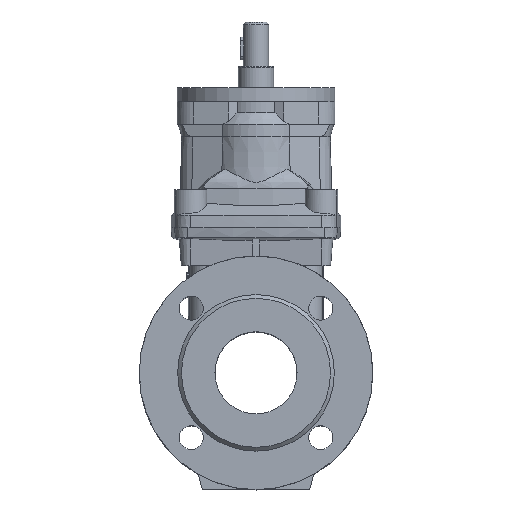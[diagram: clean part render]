
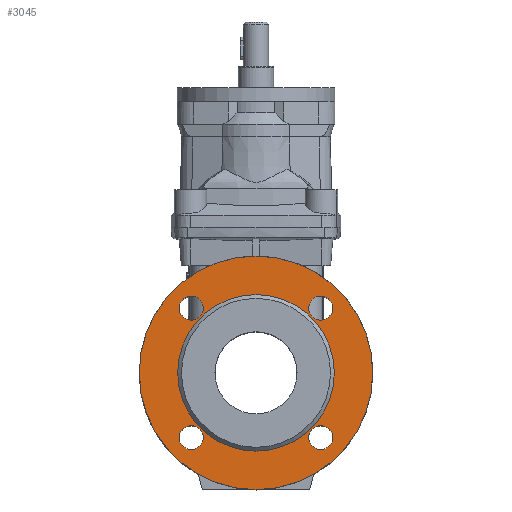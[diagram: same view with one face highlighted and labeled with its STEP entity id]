
A CAD part, top view. The second image highlights one B-rep face of the part: STEP entity #3045.
In plain terms, the highlighted planar face has unit normal (0, 0, 1).
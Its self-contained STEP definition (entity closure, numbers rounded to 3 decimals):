
#581 = VERTEX_POINT ( 'NONE', #834 ) ;
#582 = VERTEX_POINT ( 'NONE', #835 ) ;
#589 = VERTEX_POINT ( 'NONE', #842 ) ;
#591 = VERTEX_POINT ( 'NONE', #844 ) ;
#593 = VERTEX_POINT ( 'NONE', #846 ) ;
#596 = VERTEX_POINT ( 'NONE', #849 ) ;
#834 = CARTESIAN_POINT ( 'NONE',  ( -60.765, -51.265, 82. ) ) ;
#835 = CARTESIAN_POINT ( 'NONE',  ( 60.765, -51.265, 82. ) ) ;
#842 = CARTESIAN_POINT ( 'NONE',  ( -60.765, 51.265, 82. ) ) ;
#844 = CARTESIAN_POINT ( 'NONE',  ( -92.5, 0., 82. ) ) ;
#846 = CARTESIAN_POINT ( 'NONE',  ( 60.765, 51.265, 82. ) ) ;
#849 = CARTESIAN_POINT ( 'NONE',  ( 62., 0., 82. ) ) ;
#1900 = DIRECTION ( 'NONE',  ( 0., 0., 1. ) ) ;
#1904 = PLANE ( 'NONE',  #6358 ) ;
#1906 = CARTESIAN_POINT ( 'NONE',  ( 0., 107., 82. ) ) ;
#1908 = DIRECTION ( 'NONE',  ( -1., 0., 0. ) ) ;
#2053 = AXIS2_PLACEMENT_3D ( 'NONE', #7105, #7106, #7107 ) ;
#2055 = AXIS2_PLACEMENT_3D ( 'NONE', #7486, #7487, #7488 ) ;
#2065 = AXIS2_PLACEMENT_3D ( 'NONE', #7554, #7555, #7556 ) ;
#2067 = AXIS2_PLACEMENT_3D ( 'NONE', #7563, #7564, #7565 ) ;
#2070 = AXIS2_PLACEMENT_3D ( 'NONE', #7575, #7576, #7577 ) ;
#2077 = AXIS2_PLACEMENT_3D ( 'NONE', #7634, #7635, #7636 ) ;
#2859 = FACE_OUTER_BOUND ( 'NONE', #5035, .T. ) ;
#2860 = FACE_BOUND ( 'NONE', #5019, .T. ) ;
#2861 = FACE_BOUND ( 'NONE', #5036, .T. ) ;
#2862 = FACE_BOUND ( 'NONE', #5039, .T. ) ;
#2864 = FACE_BOUND ( 'NONE', #5040, .T. ) ;
#2865 = FACE_BOUND ( 'NONE', #5023, .T. ) ;
#3045 = ADVANCED_FACE ( 'NONE', ( #2861, #2864, #2860, #2859, #2862, #2865 ), #1904, .T. ) ;
#3786 = ORIENTED_EDGE ( 'NONE', *, *, #5512, .T. ) ;
#3790 = ORIENTED_EDGE ( 'NONE', *, *, #5492, .T. ) ;
#3797 = ORIENTED_EDGE ( 'NONE', *, *, #5509, .F. ) ;
#3798 = ORIENTED_EDGE ( 'NONE', *, *, #5506, .F. ) ;
#3799 = ORIENTED_EDGE ( 'NONE', *, *, #4352, .F. ) ;
#3813 = ORIENTED_EDGE ( 'NONE', *, *, #5533, .F. ) ;
#4352 = EDGE_CURVE ( 'NONE', #581, #581, #6504, .T. ) ;
#5019 = EDGE_LOOP ( 'NONE', ( #3813 ) ) ;
#5023 = EDGE_LOOP ( 'NONE', ( #3790 ) ) ;
#5035 = EDGE_LOOP ( 'NONE', ( #3797 ) ) ;
#5036 = EDGE_LOOP ( 'NONE', ( #3786 ) ) ;
#5039 = EDGE_LOOP ( 'NONE', ( #3799 ) ) ;
#5040 = EDGE_LOOP ( 'NONE', ( #3798 ) ) ;
#5492 = EDGE_CURVE ( 'NONE', #582, #582, #6512, .T. ) ;
#5506 = EDGE_CURVE ( 'NONE', #589, #589, #6531, .T. ) ;
#5509 = EDGE_CURVE ( 'NONE', #591, #591, #6533, .T. ) ;
#5512 = EDGE_CURVE ( 'NONE', #593, #593, #6530, .T. ) ;
#5533 = EDGE_CURVE ( 'NONE', #596, #596, #6566, .T. ) ;
#6358 = AXIS2_PLACEMENT_3D ( 'NONE', #1906, #1900, #1908 ) ;
#6504 = CIRCLE ( 'NONE', #2053, 9.5 ) ;
#6512 = CIRCLE ( 'NONE', #2055, 9.5 ) ;
#6530 = CIRCLE ( 'NONE', #2070, 9.5 ) ;
#6531 = CIRCLE ( 'NONE', #2065, 9.5 ) ;
#6533 = CIRCLE ( 'NONE', #2067, 92.5 ) ;
#6566 = CIRCLE ( 'NONE', #2077, 62. ) ;
#7105 = CARTESIAN_POINT ( 'NONE',  ( -51.265, -51.265, 82. ) ) ;
#7106 = DIRECTION ( 'NONE',  ( 0., 0., 1. ) ) ;
#7107 = DIRECTION ( 'NONE',  ( -1., 0., 0. ) ) ;
#7486 = CARTESIAN_POINT ( 'NONE',  ( 51.265, -51.265, 82. ) ) ;
#7487 = DIRECTION ( 'NONE',  ( 0., 0., -1. ) ) ;
#7488 = DIRECTION ( 'NONE',  ( 1., 0., 0. ) ) ;
#7554 = CARTESIAN_POINT ( 'NONE',  ( -51.265, 51.265, 82. ) ) ;
#7555 = DIRECTION ( 'NONE',  ( 0., 0., 1. ) ) ;
#7556 = DIRECTION ( 'NONE',  ( -1., 0., 0. ) ) ;
#7563 = CARTESIAN_POINT ( 'NONE',  ( 0., 0., 82. ) ) ;
#7564 = DIRECTION ( 'NONE',  ( 0., 0., -1. ) ) ;
#7565 = DIRECTION ( 'NONE',  ( -1., 0., 0. ) ) ;
#7575 = CARTESIAN_POINT ( 'NONE',  ( 51.265, 51.265, 82. ) ) ;
#7576 = DIRECTION ( 'NONE',  ( 0., 0., -1. ) ) ;
#7577 = DIRECTION ( 'NONE',  ( 1., 0., 0. ) ) ;
#7634 = CARTESIAN_POINT ( 'NONE',  ( 0., 0., 82. ) ) ;
#7635 = DIRECTION ( 'NONE',  ( 0., 0., 1. ) ) ;
#7636 = DIRECTION ( 'NONE',  ( 1., 0., 0. ) ) ;
